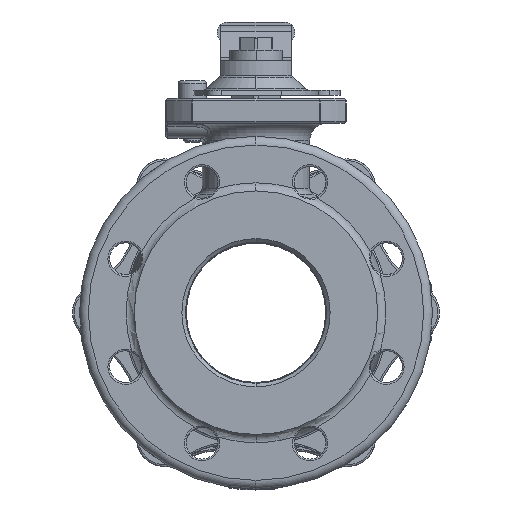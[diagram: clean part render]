
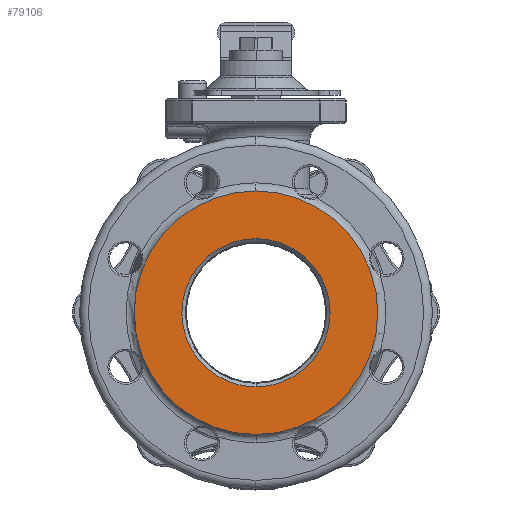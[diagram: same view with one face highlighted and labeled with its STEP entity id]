
A CAD part, left-side view. The second image highlights one B-rep face of the part: STEP entity #79106.
In plain terms, the highlighted planar face has unit normal (-1, 0, 0).
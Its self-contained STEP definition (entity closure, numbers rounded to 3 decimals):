
#17968=CARTESIAN_POINT('',(-65.,0.,0.));
#17969=DIRECTION('',(-1.,0.,0.));
#17970=DIRECTION('',(0.,0.,-1.));
#17971=AXIS2_PLACEMENT_3D('',#17968,#17969,#17970);
#17973=CARTESIAN_POINT('',(-65.,0.,0.));
#17974=DIRECTION('',(-1.,0.,0.));
#17975=DIRECTION('',(0.,0.,1.));
#17976=AXIS2_PLACEMENT_3D('',#17973,#17974,#17975);
#17978=CARTESIAN_POINT('',(-65.,0.,0.));
#17979=DIRECTION('',(-1.,0.,0.));
#17980=DIRECTION('',(0.,0.,1.));
#17981=AXIS2_PLACEMENT_3D('',#17978,#17979,#17980);
#17983=CARTESIAN_POINT('',(-65.,0.,0.));
#17984=DIRECTION('',(1.,0.,0.));
#17985=DIRECTION('',(0.,0.,1.));
#17986=AXIS2_PLACEMENT_3D('',#17983,#17984,#17985);
#41913=CARTESIAN_POINT('',(-65.,0.,42.));
#41914=CARTESIAN_POINT('',(-65.,0.,-42.));
#41915=VERTEX_POINT('',#41913);
#41916=VERTEX_POINT('',#41914);
#43792=CARTESIAN_POINT('',(-65.,0.,-69.));
#43793=CARTESIAN_POINT('',(-65.,0.,69.));
#43794=VERTEX_POINT('',#43792);
#43795=VERTEX_POINT('',#43793);
#79092=CARTESIAN_POINT('',(-65.,0.,0.));
#79093=DIRECTION('',(-1.,0.,0.));
#79094=DIRECTION('',(0.,0.,1.));
#79095=AXIS2_PLACEMENT_3D('',#79092,#79093,#79094);
#79096=PLANE('',#79095);
#79098=ORIENTED_EDGE('',*,*,#79097,.F.);
#79099=ORIENTED_EDGE('',*,*,#79067,.F.);
#79100=EDGE_LOOP('',(#79098,#79099));
#79101=FACE_OUTER_BOUND('',#79100,.F.);
#79102=ORIENTED_EDGE('',*,*,#50939,.T.);
#79103=ORIENTED_EDGE('',*,*,#50924,.F.);
#79104=EDGE_LOOP('',(#79102,#79103));
#79105=FACE_BOUND('',#79104,.F.);
#79106=ADVANCED_FACE('',(#79101,#79105),#79096,.T.);
#17972=CIRCLE('',#17971,69.);
#17977=CIRCLE('',#17976,69.);
#17982=CIRCLE('',#17981,42.);
#17987=CIRCLE('',#17986,42.);
#50924=EDGE_CURVE('',#41915,#41916,#17987,.T.);
#50939=EDGE_CURVE('',#41915,#41916,#17982,.T.);
#79067=EDGE_CURVE('',#43795,#43794,#17977,.T.);
#79097=EDGE_CURVE('',#43794,#43795,#17972,.T.);
